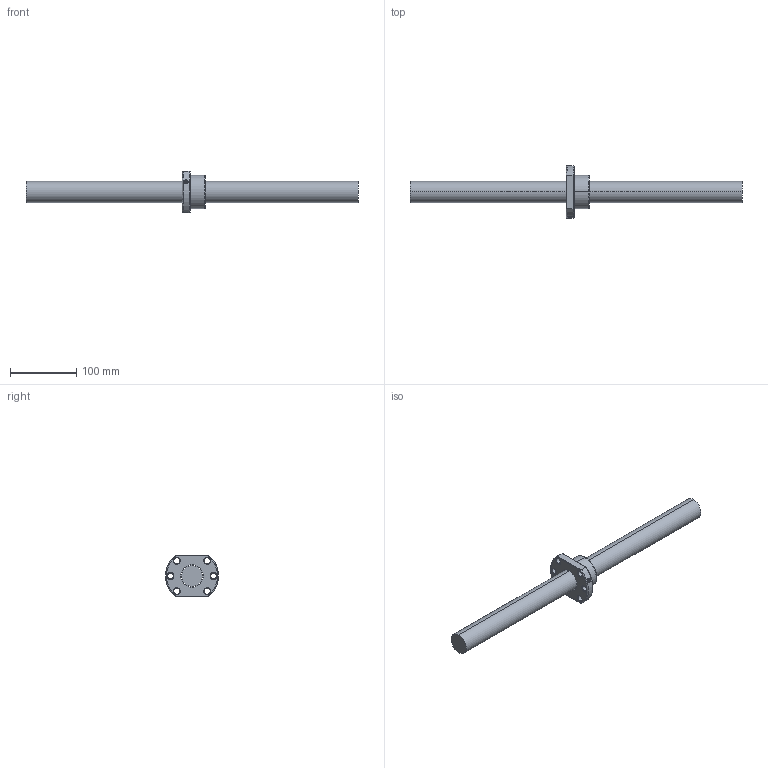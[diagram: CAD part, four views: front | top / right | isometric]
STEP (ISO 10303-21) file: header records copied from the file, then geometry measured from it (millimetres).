
FILE_DESCRIPTION (( 'STEP AP203' ), '1' );
FILE_NAME ('SFB3205-3.8.STEP', '2024-08-13T03:31:02', ( '' ), ( '' ), 'SwSTEP 2.0', 'SolidWorks 2022', '' );
FILE_SCHEMA (( 'CONFIG_CONTROL_DESIGN' ));
Length unit declared in the file: millimetre
Products named in the file (1): SFB3205-3.8
Bounding box: 500 x 79.74 x 62 mm (x, y, z)
Volume: 462826.6 mm3; surface area: 70233.2 mm2
Topology: 2 solids, 2 shells, 85 faces, 218 edges, 138 vertices
Faces by surface type: cylinder 35, cone 26, plane 12, bspline 6, torus 6
Entity records: 6018 total; most frequent: CARTESIAN_POINT 3939, ORIENTED_EDGE 436, DIRECTION 403, EDGE_CURVE 218, AXIS2_PLACEMENT_3D 164, VERTEX_POINT 138, EDGE_LOOP 102, FACE_OUTER_BOUND 85
